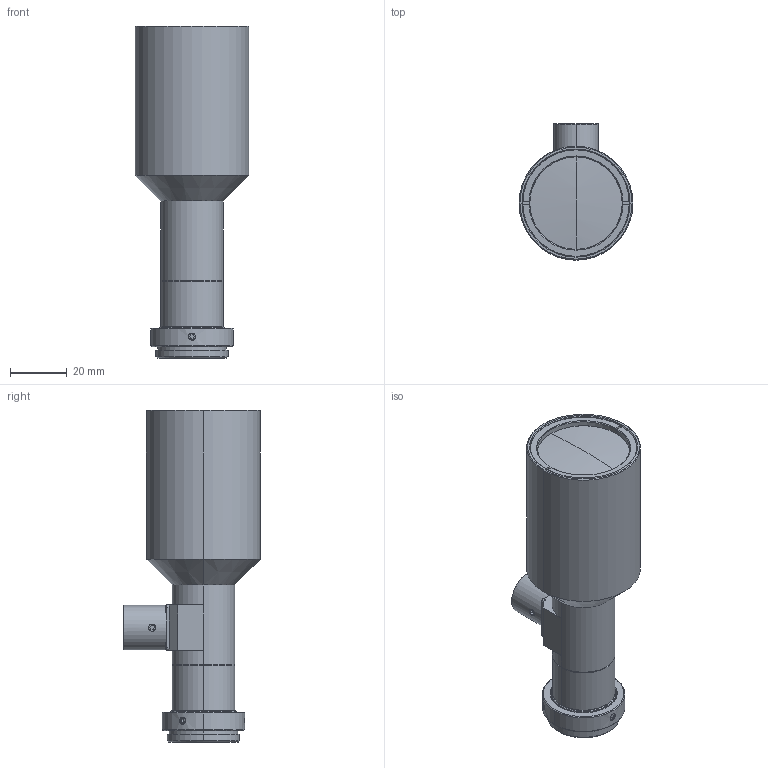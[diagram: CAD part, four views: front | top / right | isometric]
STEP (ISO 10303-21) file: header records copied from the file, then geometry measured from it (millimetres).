
FILE_DESCRIPTION (( 'STEP AP214' ), '1' );
FILE_NAME ('MML08-HR255D.STEP', '2026-02-18T04:48:06', ( '' ), ( '' ), 'SwSTEP 2.0', 'SolidWorks 2025', '' );
FILE_SCHEMA (( 'AUTOMOTIVE_DESIGN' ));
Length unit declared in the file: millimetre
Products named in the file (1): MML08-HR255D
Bounding box: 40 x 48 x 116.69 mm (x, y, z)
Volume: 93441.4 mm3; surface area: 17073.6 mm2
Topology: 1 solids, 1 shells, 315 faces, 782 edges, 488 vertices
Faces by surface type: plane 148, cone 86, cylinder 61, sphere 12, torus 8
Entity records: 9714 total; most frequent: CARTESIAN_POINT 2102, DIRECTION 1673, ORIENTED_EDGE 1548, EDGE_CURVE 774, AXIS2_PLACEMENT_3D 663, VERTEX_POINT 488, CIRCLE 347, LINE 347
